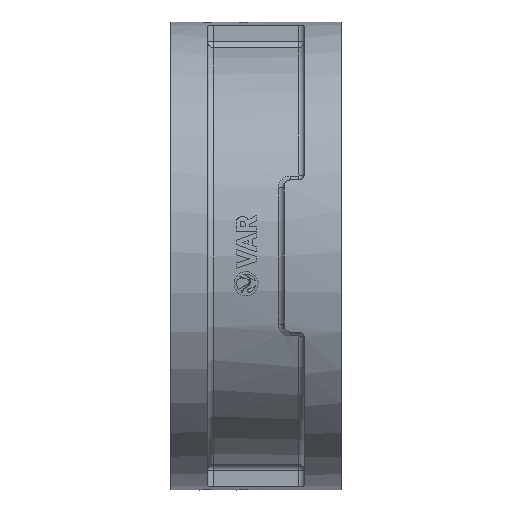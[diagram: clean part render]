
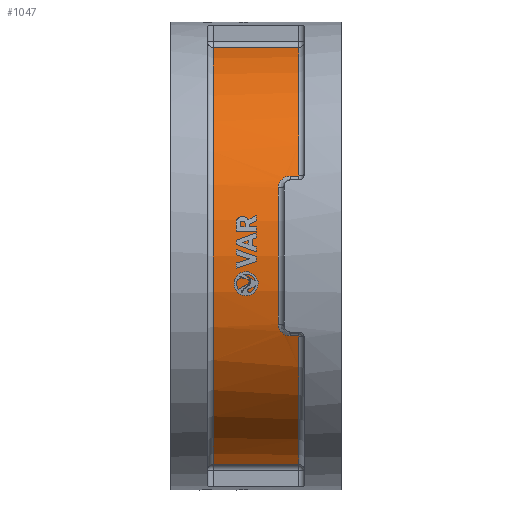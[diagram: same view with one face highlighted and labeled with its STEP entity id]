
A CAD part, left-side view. The second image highlights one B-rep face of the part: STEP entity #1047.
In plain terms, the highlighted cylindrical face has radius 87.5 mm (diameter 175 mm), a partial arc.
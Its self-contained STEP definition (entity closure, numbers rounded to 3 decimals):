
#1047=ADVANCED_FACE('',(#3795),#3797,.T.);
#3795=FACE_BOUND('',#3796,.T.);
#3796=EDGE_LOOP('',(#11626,#11627,#11628,#11629,#11630,#11631,#11632,#11633,#11634,
#11635));
#3797=CYLINDRICAL_SURFACE('',#3798,87.5);
#3798=AXIS2_PLACEMENT_3D('',#3799,#3800,#3801);
#3799=CARTESIAN_POINT('',(0.,15.,0.));
#3800=DIRECTION('',(0.,1.,0.));
#3801=DIRECTION('',(-1.,0.,0.));
#11626=ORIENTED_EDGE('',*,*,#14304,.T.);
#11627=ORIENTED_EDGE('',*,*,#14305,.F.);
#11628=ORIENTED_EDGE('',*,*,#14306,.F.);
#11629=ORIENTED_EDGE('',*,*,#14307,.F.);
#11630=ORIENTED_EDGE('',*,*,#14308,.T.);
#11631=ORIENTED_EDGE('',*,*,#14309,.F.);
#11632=ORIENTED_EDGE('',*,*,#14310,.F.);
#11633=ORIENTED_EDGE('',*,*,#14311,.F.);
#11634=ORIENTED_EDGE('',*,*,#14312,.F.);
#11635=ORIENTED_EDGE('',*,*,#14313,.F.);
#14304=EDGE_CURVE('',#15426,#15427,#15428,.T.);
#14305=EDGE_CURVE('',#15429,#15427,#15430,.F.);
#14306=EDGE_CURVE('',#15431,#15429,#15432,.T.);
#14307=EDGE_CURVE('',#15433,#15431,#15434,.T.);
#14308=EDGE_CURVE('',#15433,#15435,#15436,.T.);
#14309=EDGE_CURVE('',#15437,#15435,#15438,.F.);
#14310=EDGE_CURVE('',#15439,#15437,#15440,.T.);
#14311=EDGE_CURVE('',#15441,#15439,#15442,.F.);
#14312=EDGE_CURVE('',#15443,#15441,#15444,.F.);
#14313=EDGE_CURVE('',#15426,#15443,#15445,.T.);
#15426=VERTEX_POINT('',#18568);
#15427=VERTEX_POINT('',#18569);
#15428=CIRCLE('',#18570,87.5);
#15429=VERTEX_POINT('',#18574);
#15430=LINE('',#18575,#18576);
#15431=VERTEX_POINT('',#18578);
#15432=CIRCLE('',#18579,87.5);
#15433=VERTEX_POINT('',#18583);
#15434=LINE('',#18584,#18585);
#15435=VERTEX_POINT('',#18587);
#15436=CIRCLE('',#18588,87.5);
#15437=VERTEX_POINT('',#18592);
#15438=LINE('',#18593,#18594);
#15439=VERTEX_POINT('',#18596);
#15440=B_SPLINE_CURVE_WITH_KNOTS('',3,
(#18597,#18598,#18599,#18600,#18601,#18602,#18603,#18604,#18605,#18606,#18607,#18608,
#18609,#18610,#18611,#18612,#18613,#18614,#18615),
.UNSPECIFIED.,.F.,.F.,
(4,1,1,1,1,1,1,1,1,1,1,1,1,1,1,1,4),
(0.,0.129,0.237,0.33,0.414,0.498,
0.569,0.641,0.703,0.763,0.815,
0.862,0.9,0.931,0.958,0.981,
1.),
.UNSPECIFIED.);
#15441=VERTEX_POINT('',#18616);
#15442=CIRCLE('',#18617,87.5);
#15443=VERTEX_POINT('',#18621);
#15444=B_SPLINE_CURVE_WITH_KNOTS('',3,
(#18622,#18623,#18624,#18625,#18626,#18627,#18628,#18629,#18630,#18631,#18632,#18633,
#18634,#18635,#18636,#18637,#18638,#18639,#18640),
.UNSPECIFIED.,.F.,.F.,
(4,1,1,1,1,1,1,1,1,1,1,1,1,1,1,1,4),
(0.,0.129,0.237,0.33,0.414,0.498,
0.569,0.641,0.703,0.763,0.815,
0.862,0.9,0.931,0.958,0.981,
1.),
.UNSPECIFIED.);
#15445=LINE('',#18641,#18642);
#18568=CARTESIAN_POINT('',(-81.115,17.5,32.813));
#18569=CARTESIAN_POINT('',(-18.181,17.5,85.59));
#18570=AXIS2_PLACEMENT_3D('',#18571,#18572,#18573);
#18571=CARTESIAN_POINT('',(0.,17.5,0.));
#18572=DIRECTION('',(0.,1.,0.));
#18573=DIRECTION('',(-0.927,0.,0.375));
#18574=CARTESIAN_POINT('',(-18.181,52.5,85.59));
#18575=CARTESIAN_POINT('',(-18.181,17.5,85.59));
#18576=VECTOR('',#18577,1.);
#18577=DIRECTION('',(0.,1.,0.));
#18578=CARTESIAN_POINT('',(-18.181,52.5,-85.59));
#18579=AXIS2_PLACEMENT_3D('',#18580,#18581,#18582);
#18580=CARTESIAN_POINT('',(0.,52.5,0.));
#18581=DIRECTION('',(0.,1.,0.));
#18582=DIRECTION('',(-0.208,0.,-0.978));
#18583=CARTESIAN_POINT('',(-18.181,17.5,-85.59));
#18584=CARTESIAN_POINT('',(-18.181,17.5,-85.59));
#18585=VECTOR('',#18586,1.);
#18586=DIRECTION('',(0.,1.,0.));
#18587=CARTESIAN_POINT('',(-81.115,17.5,-32.813));
#18588=AXIS2_PLACEMENT_3D('',#18589,#18590,#18591);
#18589=CARTESIAN_POINT('',(0.,17.5,0.));
#18590=DIRECTION('',(0.,1.,0.));
#18591=DIRECTION('',(-0.208,0.,-0.978));
#18592=CARTESIAN_POINT('',(-81.115,20.833,-32.813));
#18593=CARTESIAN_POINT('',(-81.115,17.5,-32.813));
#18594=VECTOR('',#18595,1.);
#18595=DIRECTION('',(0.,1.,0.));
#18596=CARTESIAN_POINT('',(-82.915,25.833,-27.951));
#18597=CARTESIAN_POINT('',(-82.915,25.833,-27.951));
#18598=CARTESIAN_POINT('',(-82.809,25.833,-28.267));
#18599=CARTESIAN_POINT('',(-82.611,25.775,-28.844));
#18600=CARTESIAN_POINT('',(-82.336,25.551,-29.618));
#18601=CARTESIAN_POINT('',(-82.104,25.253,-30.255));
#18602=CARTESIAN_POINT('',(-81.899,24.9,-30.803));
#18603=CARTESIAN_POINT('',(-81.724,24.507,-31.266));
#18604=CARTESIAN_POINT('',(-81.571,24.08,-31.662));
#18605=CARTESIAN_POINT('',(-81.447,23.65,-31.979));
#18606=CARTESIAN_POINT('',(-81.344,23.205,-32.24));
#18607=CARTESIAN_POINT('',(-81.266,22.779,-32.437));
#18608=CARTESIAN_POINT('',(-81.207,22.367,-32.584));
#18609=CARTESIAN_POINT('',(-81.168,22.005,-32.681));
#18610=CARTESIAN_POINT('',(-81.143,21.689,-32.743));
#18611=CARTESIAN_POINT('',(-81.128,21.424,-32.78));
#18612=CARTESIAN_POINT('',(-81.119,21.196,-32.801));
#18613=CARTESIAN_POINT('',(-81.115,21.002,-32.811));
#18614=CARTESIAN_POINT('',(-81.115,20.885,-32.813));
#18615=CARTESIAN_POINT('',(-81.115,20.833,-32.813));
#18616=CARTESIAN_POINT('',(-82.915,25.833,27.951));
#18617=AXIS2_PLACEMENT_3D('',#18618,#18619,#18620);
#18618=CARTESIAN_POINT('',(0.,25.833,0.));
#18619=DIRECTION('',(0.,1.,0.));
#18620=DIRECTION('',(-0.948,0.,-0.319));
#18621=CARTESIAN_POINT('',(-81.115,20.833,32.813));
#18622=CARTESIAN_POINT('',(-82.915,25.833,27.951));
#18623=CARTESIAN_POINT('',(-82.809,25.833,28.267));
#18624=CARTESIAN_POINT('',(-82.611,25.775,28.844));
#18625=CARTESIAN_POINT('',(-82.336,25.551,29.618));
#18626=CARTESIAN_POINT('',(-82.104,25.253,30.255));
#18627=CARTESIAN_POINT('',(-81.899,24.9,30.803));
#18628=CARTESIAN_POINT('',(-81.724,24.507,31.266));
#18629=CARTESIAN_POINT('',(-81.571,24.08,31.662));
#18630=CARTESIAN_POINT('',(-81.447,23.65,31.979));
#18631=CARTESIAN_POINT('',(-81.344,23.205,32.24));
#18632=CARTESIAN_POINT('',(-81.266,22.779,32.437));
#18633=CARTESIAN_POINT('',(-81.207,22.367,32.584));
#18634=CARTESIAN_POINT('',(-81.168,22.005,32.681));
#18635=CARTESIAN_POINT('',(-81.143,21.689,32.743));
#18636=CARTESIAN_POINT('',(-81.128,21.424,32.78));
#18637=CARTESIAN_POINT('',(-81.119,21.196,32.801));
#18638=CARTESIAN_POINT('',(-81.115,21.002,32.811));
#18639=CARTESIAN_POINT('',(-81.115,20.885,32.813));
#18640=CARTESIAN_POINT('',(-81.115,20.833,32.813));
#18641=CARTESIAN_POINT('',(-81.115,17.5,32.813));
#18642=VECTOR('',#18643,1.);
#18643=DIRECTION('',(0.,1.,0.));
